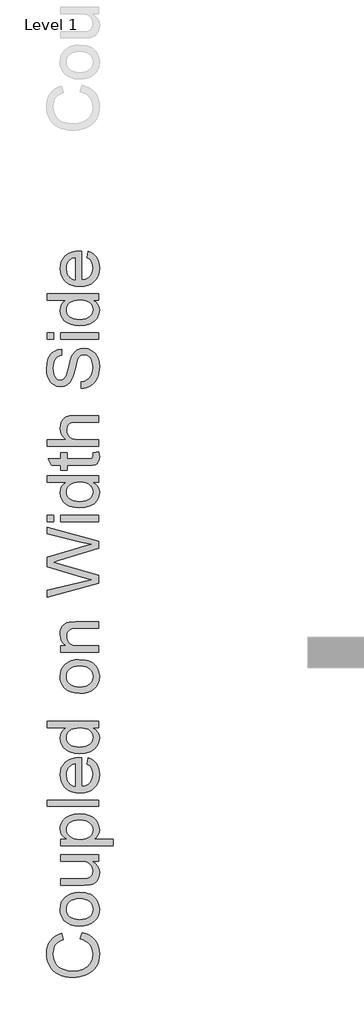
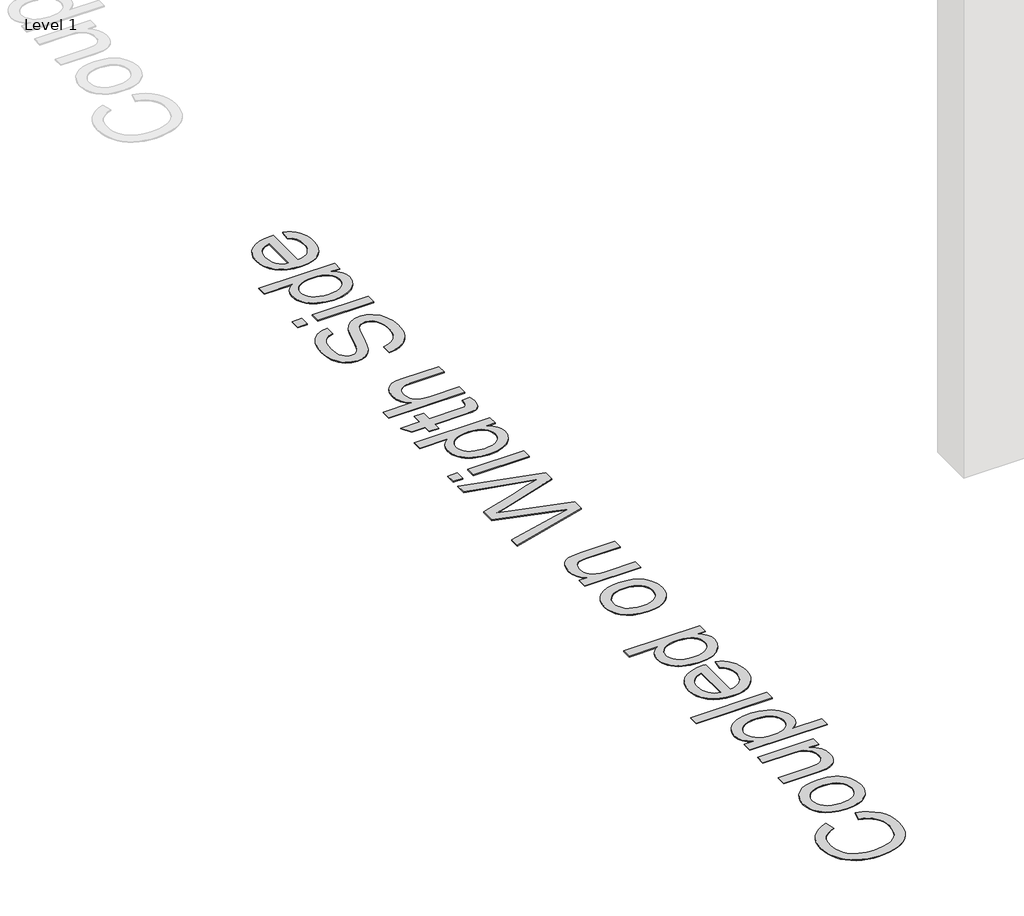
# One storey, part 61 of 80: 1 proxy.
"""IFC4 building model written with IfcOpenShell, lengths in millimetres."""

from ifc_helpers import new_model, si_unit, origin, origin_with_axes, place, context, project, spatial, polyline, outline, extrude, element, save

model = new_model("IFC4")

# Units and contexts
model_context = context("Model", 3, world=origin())
ifc_project = project(units=[si_unit("LENGTHUNIT", "METRE", prefix="MILLI")], contexts=[model_context])

# Site, building, storey
site = spatial("IfcSite", under=ifc_project)
building = spatial("IfcBuilding", under=site)
storey = spatial("IfcBuildingStorey", under=building, Name="Level 1", Elevation=0.0)

# Proxy
placement = place(None, origin())
element("IfcBuildingElementProxy", 1, Name="500mm Arial", ObjectType="500mm Arial", at=placement, inside=storey, context=model_context, shape_type="SweptSolid", body=[
    extrude(outline(polyline([(172134.4472638, 44082.6564057), (172150.6340716, 44145.4415995), (172189.6793805, 44133.017918), (172223.7966034, 44116.4708924), (172252.9857405, 44095.8005228), (172277.2467916, 44071.0068092), (172296.3191738, 44042.6492387), (172309.942304, 44011.2872986), (172318.116182, 43976.9209889), (172320.8408081, 43939.5503096), (172318.779136, 43901.2637573), (172312.59412, 43866.7250029), (172302.2857599, 43835.9340464), (172287.8540558, 43808.8908876), (172269.5136055, 43785.2238126), (172247.4790069, 43764.5611072), (172221.7502598, 43746.9027714), (172192.3273644, 43732.2488053), (172160.4825792, 43720.7409966), (172127.4881628, 43712.5211333), (172093.3441151, 43707.5892153), (172058.0504362, 43705.9452426), (172020.1815833, 43707.8038131), (171984.8112623, 43713.3795246), (171951.9394732, 43722.6723771), (171921.566216, 43735.6823706), (171894.1934963, 43752.1182651), (171870.3233197, 43771.6888208), (171849.9556863, 43794.3940377), (171833.0905961, 43820.2339158), (171819.8660048, 43848.3309032), (171810.4198682, 43877.807448), (171804.7521862, 43908.6635504), (171802.8629589, 43940.8992102), (171805.3078413, 43976.8098579), (171812.6424886, 44009.7391286), (171824.8669007, 44039.6870222), (171841.9810777, 44066.6535389), (171863.5328312, 44090.1941545), (171889.0699731, 44109.8643449), (171918.5925032, 44125.6641102), (171952.1004216, 44137.5934503), (171967.060956, 44074.8082565), (171942.3707092, 44064.9214278), (171921.2749761, 44053.0419051), (171903.7737566, 44039.1696882), (171889.8670507, 44023.3047771), (171879.2712828, 44005.3552014), (171871.7028772, 43985.2289906), (171867.1618338, 43962.9261447), (171865.6481527, 43938.4466636), (171867.3266143, 43910.2806983), (171872.3619991, 43884.5212944), (171880.7543071, 43861.168452), (171892.5035383, 43840.2221709), (171907.0808624, 43821.9468663), (171923.9574489, 43806.6069536), (171943.1332979, 43794.2024325), (171964.6084094, 43784.7333033), (172010.563002, 43772.7311532), (172057.9278088, 43768.7304365), (172115.9305368, 43773.4669172), (172166.0851154, 43787.6763592), (172187.7403358, 43798.4675644), (172206.4754928, 43811.8952572), (172222.2905865, 43827.9594377), (172235.1856169, 43846.6601058), (172252.3381149, 43888.3380701), (172258.0556142, 43933.2963156), (172256.1089053, 43960.5923933), (172250.2687787, 43985.7041715), (172240.5352342, 44008.6316505), (172226.908272, 44029.3748301), (172209.4492056, 44047.443201), (172188.2193488, 44062.3462539), (172163.2187015, 44074.0839888), (172134.4472638, 44082.6564057)])), origin_with_axes(), (0.0, 0.0, 1.0), 5.0),
    extrude(outline(polyline([(172128.5611519, 44208.2267934), (172080.790142, 44211.6220376), (172039.6256796, 44221.8077704), (172005.0677647, 44238.7839916), (171977.1163972, 44262.5507013), (171959.2511278, 44286.4783594), (171946.4902211, 44312.889221), (171938.8336771, 44341.783286), (171936.2814958, 44373.1605545), (171939.3893322, 44407.7989437), (171948.7128415, 44439.1187306), (171964.2520237, 44467.1199154), (171986.0068788, 44491.802498), (172013.2416427, 44511.9478693), (172045.2205516, 44526.3374203), (172081.9436053, 44534.9711509), (172123.410804, 44537.8490611), (172186.8397913, 44532.7600268), (172212.8751067, 44526.398734), (172235.1243032, 44517.492924), (172254.3423053, 44506.1537279), (172271.2840376, 44492.4922767), (172285.9495001, 44476.5085705), (172298.3386927, 44458.2026091), (172315.2152792, 44417.4750065), (172320.8408081, 44373.1605545), (172317.7444679, 44338.0163277), (172308.4554476, 44306.4053008), (172292.9737469, 44278.327474), (172271.299366, 44253.7828471), (172243.8001869, 44233.8520736), (172210.8440915, 44219.6158068), (172172.4310798, 44211.0740467), (172128.5611519, 44208.2267934)]), holes=[polyline([(172128.4385246, 44271.0119872), (172158.892256, 44272.8284046), (172185.2609644, 44278.2776566), (172207.5446499, 44287.3597434), (172225.7433123, 44300.0746648), (172239.8799444, 44315.541037), (172249.9775387, 44332.8774761), (172256.0360954, 44352.0839819), (172258.0556142, 44373.1605545), (172256.024599, 44394.1298283), (172249.9315535, 44413.259692), (172239.7764776, 44430.5501458), (172225.5593713, 44446.0011896), (172207.1806, 44458.716111), (172184.5405289, 44467.7981978), (172157.639158, 44473.2474499), (172126.4764873, 44475.0638672), (172096.9884461, 44473.2359535), (172071.3095164, 44467.7522126), (172049.4396982, 44458.6126442), (172031.3789915, 44445.8172486), (172017.2423594, 44430.3087232), (172007.1447651, 44413.0297658), (172001.0862085, 44393.9803762), (171999.0666896, 44373.1605545), (172001.0785443, 44352.0839819), (172007.1141083, 44332.8774761), (172017.1733816, 44315.541037), (172031.2563642, 44300.0746648), (172049.4013772, 44287.3597434), (172071.6467416, 44278.2776566), (172097.9924574, 44272.8284046), (172128.4385246, 44271.0119872)])]), origin_with_axes(), (0.0, 0.0, 1.0), 5.0),
    extrude(outline(polyline([(172312.9926588, 44843.926881), (172249.5943283, 44843.926881), (172280.7646632, 44821.2101678), (172303.0291881, 44794.753321), (172316.3879031, 44764.5563406), (172320.8408081, 44730.6192265), (172317.7138111, 44700.0390357), (172308.3328202, 44671.5741663), (172294.2306771, 44647.6924934), (172276.9402233, 44630.8618922), (172255.9402927, 44619.5341924), (172230.7097192, 44612.1612241), (172172.3391093, 44608.4824041), (171944.129645, 44608.4824041), (171944.129645, 44671.267598), (172142.7859224, 44671.267598), (172206.7973896, 44675.0690453), (172228.1498737, 44684.2201099), (172244.3826667, 44699.9010799), (172254.6373773, 44721.0696231), (172258.0556142, 44746.683407), (172254.5607353, 44773.7687189), (172244.0760984, 44799.1065913), (172227.5673939, 44819.9992229), (172206.0003119, 44833.7488125), (172176.4624534, 44841.3823639), (172136.0414192, 44843.926881), (171944.129645, 44843.926881), (171944.129645, 44906.7120749), (172312.9926588, 44906.7120749), (172312.9926588, 44843.926881)])), origin_with_axes(), (0.0, 0.0, 1.0), 5.0),
    extrude(outline(polyline([(172454.259345, 44993.0417164), (171944.129645, 44993.0417164), (171944.129645, 45055.8269103), (172005.6885655, 45055.8269103), (171975.3229725, 45076.3056747), (171953.6332632, 45099.2369857), (171940.6194376, 45125.969744), (171936.2814958, 45157.8528503), (171937.799009, 45179.7494932), (171942.3515487, 45200.3125639), (171949.9391148, 45219.5420623), (171960.5617075, 45237.4379885), (171973.943415, 45253.6094679), (171989.8083261, 45267.6656258), (172028.9877586, 45289.4319772), (172075.2489195, 45302.5837585), (172125.7407233, 45306.9676856), (172179.4361662, 45302.0166071), (172227.460095, 45287.1633716), (172248.735937, 45276.1422401), (172267.3752914, 45262.8831599), (172283.3781582, 45247.3861308), (172296.7445374, 45229.651153), (172314.8167404, 45190.9469014), (172320.8408081, 45150.2499557), (172316.8094345, 45121.3865475), (172304.7153139, 45095.6194794), (172286.4591699, 45073.5618881), (172263.9417261, 45055.8269103), (172454.259345, 45055.8269103), (172454.259345, 44993.0417164)]), holes=[polyline([(172131.5042079, 45055.8269103), (172161.762502, 45057.5245324), (172187.7901531, 45062.6173988), (172209.5871614, 45071.1055094), (172227.1535266, 45082.9888642), (172240.6731899, 45097.2941089), (172250.3300923, 45113.0478889), (172256.1242337, 45130.2502043), (172258.0556142, 45148.901055), (172256.0552559, 45167.8201531), (172250.0541808, 45185.336701), (172240.0523891, 45201.4506988), (172226.0498806, 45216.1621465), (172207.8473861, 45228.4210476), (172185.245636, 45237.1774055), (172158.2446304, 45242.4312202), (172126.8443693, 45244.1824918), (172096.8466583, 45242.4733734), (172070.8649923, 45237.346018), (172048.8993715, 45228.8004259), (172030.9497959, 45216.8365968), (172017.0009369, 45202.4968632), (172007.0374662, 45186.8235574), (172001.0593838, 45169.8166793), (171999.0666896, 45151.476229), (172001.1858432, 45133.1932603), (172007.5433039, 45115.9909449), (172018.1390718, 45099.8692829), (172032.9731468, 45084.8282742), (172051.8462596, 45072.1401775), (172074.5591407, 45063.0772512), (172101.1117901, 45057.6394955), (172131.5042079, 45055.8269103)])]), origin_with_axes(), (0.0, 0.0, 1.0), 5.0),
    extrude(outline(polyline([(172312.9926588, 45377.6010287), (171810.7111081, 45377.6010287), (171810.7111081, 45440.3862226), (172312.9926588, 45440.3862226), (172312.9926588, 45377.6010287)])), origin_with_axes(), (0.0, 0.0, 1.0), 5.0),
    extrude(outline(polyline([(172203.1185696, 45792.8171739), (172210.9667188, 45854.3760945), (172235.6224767, 45844.937622), (172257.3505071, 45832.1958758), (172276.1508099, 45816.1508559), (172292.0233851, 45796.8025622), (172304.6310077, 45774.3502642), (172313.6364523, 45748.9932313), (172319.0397191, 45720.7314634), (172320.8408081, 45689.5649606), (172317.7329716, 45650.6077902), (172308.4094623, 45615.8965911), (172292.8702801, 45585.4313634), (172271.115425, 45559.212107), (172243.7503696, 45538.1278701), (172211.3805861, 45523.067701), (172174.0060746, 45514.0315995), (172131.6268352, 45511.0195656), (172087.8105567, 45514.0622563), (172049.1906115, 45523.1903283), (172015.7669994, 45538.4037816), (171987.5397204, 45559.7026163), (171965.1142471, 45585.8528948), (171949.0960519, 45615.6206796), (171939.4851348, 45649.0059706), (171936.2814958, 45686.008768), (171939.4774706, 45721.819781), (171949.0653951, 45754.2048929), (171965.0452693, 45783.1641037), (171987.4170931, 45808.6974134), (172015.5830584, 45829.5402277), (172048.9453568, 45844.4279522), (172087.5039884, 45853.3605869), (172131.2589532, 45856.3381318), (172148.181525, 45855.9702498), (172148.181525, 45573.8047595), (172173.2358217, 45577.4414263), (172195.1784499, 45584.6726067), (172214.0094095, 45595.4983009), (172229.7287006, 45609.9185087), (172242.1217253, 45627.1361525), (172250.9738858, 45646.3541546), (172256.2851821, 45667.5725151), (172258.0556142, 45690.7912339), (172254.7753331, 45724.2071818), (172244.9344897, 45752.3501545), (172227.9199474, 45775.2201518), (172203.1185696, 45792.8171739)]), holes=[polyline([(172085.3963312, 45573.8047595), (172085.3963312, 45793.5529379), (172052.2256379, 45785.0609952), (172028.4972492, 45768.4143349), (172015.6213794, 45751.2924937), (172006.4243295, 45731.8100764), (172000.9060996, 45709.9670829), (171999.0666896, 45685.7635133), (172004.9374731, 45643.4417555), (172012.2759525, 45625.0284952), (172022.5498236, 45608.4469807), (172035.2839056, 45594.5326106), (172050.0030175, 45584.1207838), (172066.7071594, 45577.2115), (172085.3963312, 45573.8047595)])]), origin_with_axes(), (0.0, 0.0, 1.0), 5.0),
    extrude(outline(polyline([(172312.9926588, 46146.7196533), (172253.7636576, 46146.7196533), (172283.1099109, 46127.9346789), (172304.0715205, 46105.1796447), (172316.6484862, 46078.4545506), (172320.8408081, 46047.7593966), (172314.7707551, 46007.1697498), (172296.5605964, 45970.0136683), (172267.4825903, 45938.5597577), (172228.8089956, 45915.0766237), (172182.1033106, 45900.4533144), (172128.9290339, 45895.5788779), (172076.4138791, 45900.0701039), (172028.9877586, 45913.543782), (172007.8575365, 45923.6452085), (171989.3484736, 45935.9845837), (171973.4605699, 45950.5619078), (171960.1938255, 45967.3771806), (171942.2595782, 46005.3456682), (171936.2814958, 46047.5141419), (171940.558124, 46078.2322885), (171953.3880085, 46105.3942425), (171973.0543669, 46128.417524), (171997.8404163, 46146.7196533), (171810.7111081, 46146.7196533), (171810.7111081, 46209.5048471), (172312.9926588, 46209.5048471), (172312.9926588, 46146.7196533)]), holes=[polyline([(172128.6837793, 45958.3640718), (172159.1298465, 45960.1345039), (172185.4755623, 45965.4458002), (172207.7209267, 45974.2979607), (172225.8659396, 45986.6909854), (172239.9489223, 46001.4905715), (172250.0081956, 46017.5624162), (172256.0437596, 46034.9065194), (172258.0556142, 46053.5228812), (172256.1357301, 46072.2273814), (172250.3760776, 46089.4680178), (172240.7766568, 46105.2447904), (172227.3374676, 46119.5576993), (172209.9512112, 46131.4410542), (172188.5105887, 46139.9291648), (172163.0156, 46145.0220312), (172133.4662452, 46146.7196533), (172101.069637, 46144.9913743), (172073.2868821, 46139.8065375), (172050.1179807, 46131.1651427), (172031.5629325, 46119.06719), (172017.3458263, 46104.4400486), (172007.1907503, 46088.2110876), (172001.0977048, 46070.3803072), (171999.0666896, 46050.9477072), (172001.0172306, 46031.9634634), (172006.8688536, 46014.6193602), (172016.6215586, 45998.9153975), (172030.2753455, 45984.8515754), (172048.1291186, 45973.2632926), (172070.4817819, 45964.9859477), (172097.3333355, 45960.0195407), (172128.6837793, 45958.3640718)])]), origin_with_axes(), (0.0, 0.0, 1.0), 5.0),
    extrude(outline(polyline([(172128.5611519, 46484.1900702), (172080.790142, 46487.5853144), (172039.6256796, 46497.7710472), (172005.0677647, 46514.7472684), (171977.1163972, 46538.5139782), (171959.2511278, 46562.4416363), (171946.4902211, 46588.8524978), (171938.8336771, 46617.7465629), (171936.2814958, 46649.1238314), (171939.3893322, 46683.7622205), (171948.7128415, 46715.0820074), (171964.2520237, 46743.0831922), (171986.0068788, 46767.7657748), (172013.2416427, 46787.9111462), (172045.2205516, 46802.3006971), (172081.9436053, 46810.9344277), (172123.410804, 46813.8123379), (172186.8397913, 46808.7233036), (172212.8751067, 46802.3620108), (172235.1243032, 46793.4562008), (172254.3423053, 46782.1170047), (172271.2840376, 46768.4555536), (172285.9495001, 46752.4718473), (172298.3386927, 46734.1658859), (172315.2152792, 46693.4382834), (172320.8408081, 46649.1238314), (172317.7444679, 46613.9796045), (172308.4554476, 46582.3685777), (172292.9737469, 46554.2907508), (172271.299366, 46529.7461239), (172243.8001869, 46509.8153504), (172210.8440915, 46495.5790836), (172172.4310798, 46487.0373236), (172128.5611519, 46484.1900702)]), holes=[polyline([(172128.4385246, 46546.975264), (172158.892256, 46548.7916814), (172185.2609644, 46554.2409334), (172207.5446499, 46563.3230202), (172225.7433123, 46576.0379417), (172239.8799444, 46591.5043139), (172249.9775387, 46608.8407529), (172256.0360954, 46628.0472587), (172258.0556142, 46649.1238314), (172256.024599, 46670.0931051), (172249.9315535, 46689.2229688), (172239.7764776, 46706.5134226), (172225.5593713, 46721.9644664), (172207.1806, 46734.6793879), (172184.5405289, 46743.7614746), (172157.639158, 46749.2107267), (172126.4764873, 46751.027144), (172096.9884461, 46749.1992304), (172071.3095164, 46743.7154894), (172049.4396982, 46734.5759211), (172031.3789915, 46721.7805254), (172017.2423594, 46706.2720001), (172007.1447651, 46688.9930426), (172001.0862085, 46669.943653), (171999.0666896, 46649.1238314), (172001.0785443, 46628.0472587), (172007.1141083, 46608.8407529), (172017.1733816, 46591.5043139), (172031.2563642, 46576.0379417), (172049.4013772, 46563.3230202), (172071.6467416, 46554.2409334), (172097.9924574, 46548.7916814), (172128.4385246, 46546.975264)])]), origin_with_axes(), (0.0, 0.0, 1.0), 5.0),
    extrude(outline(polyline([(172312.9926588, 46884.445681), (171944.129645, 46884.445681), (171944.129645, 46947.2308748), (171995.6331243, 46947.2308748), (171969.6667868, 46969.0432114), (171951.1194029, 46995.2394752), (171939.9909726, 47025.819666), (171936.2814958, 47060.783784), (171939.270537, 47091.7318568), (171948.2376606, 47120.0740989), (171962.0638923, 47143.7105171), (171979.6302575, 47160.5411183), (172000.8907712, 47171.9607886), (172025.7994479, 47179.3644138), (172086.4999771, 47182.6753517), (172312.9926588, 47182.6753517), (172312.9926588, 47119.8901579), (172094.961263, 47119.8901579), (172062.495677, 47118.0814047), (172039.4110818, 47112.6551453), (172022.8717204, 47102.6456893), (172010.0418358, 47087.0873466), (172001.8104762, 47067.1450768), (171999.0666896, 47043.9838395), (172000.6071955, 47024.9191215), (172005.228713, 47007.2109684), (172012.9312423, 46990.8593802), (172023.7147833, 46975.8643568), (172038.8056093, 46963.3372084), (172059.4299937, 46954.3892453), (172085.5879364, 46949.0204674), (172117.2794374, 46947.2308748), (172312.9926588, 46947.2308748), (172312.9926588, 46884.445681)])), origin_with_axes(), (0.0, 0.0, 1.0), 5.0),
    extrude(outline(polyline([(172312.9926588, 47562.9427074), (171810.7111081, 47425.9679779), (171810.7111081, 47490.715209), (172140.8238851, 47570.17772), (172242.7271978, 47594.7031863), (172152.5961089, 47620.9454353), (171810.7111081, 47720.5188287), (171810.7111081, 47813.8382281), (172058.5409455, 47886.1883538), (172150.5114443, 47917.1824119), (172242.7271978, 47940.0217524), (172143.7669411, 47963.8114548), (171810.7111081, 48044.0097297), (171810.7111081, 48108.7569609), (172312.9926588, 47971.659604), (172312.9926588, 47904.5824536), (171925.4902906, 47784.1624138), (171871.4116373, 47767.3624694), (171936.5267504, 47748.4778603), (172312.9926588, 47638.7263984), (172312.9926588, 47562.9427074)])), origin_with_axes(), (0.0, 0.0, 1.0), 5.0),
    extrude(outline(polyline([(172312.9926588, 48163.6940055), (171944.129645, 48163.6940055), (171944.129645, 48226.4791994), (172312.9926588, 48226.4791994), (172312.9926588, 48163.6940055)])), origin_with_axes(), (0.0, 0.0, 1.0), 5.0),
    extrude(outline(polyline([(171873.4963019, 48163.6940055), (171810.7111081, 48163.6940055), (171810.7111081, 48226.4791994), (171873.4963019, 48226.4791994), (171873.4963019, 48163.6940055)])), origin_with_axes(), (0.0, 0.0, 1.0), 5.0),
    extrude(outline(polyline([(172312.9926588, 48548.2533178), (172253.7636576, 48548.2533178), (172283.1099109, 48529.4683434), (172304.0715205, 48506.7133092), (172316.6484862, 48479.9882151), (172320.8408081, 48449.2930611), (172314.7707551, 48408.7034143), (172296.5605964, 48371.5473328), (172267.4825903, 48340.0934222), (172228.8089956, 48316.6102882), (172182.1033106, 48301.9869789), (172128.9290339, 48297.1125424), (172076.4138791, 48301.6037685), (172028.9877586, 48315.0774465), (172007.8575365, 48325.178873), (171989.3484736, 48337.5182482), (171973.4605699, 48352.0955723), (171960.1938255, 48368.9108452), (171942.2595782, 48406.8793327), (171936.2814958, 48449.0478064), (171940.558124, 48479.765953), (171953.3880085, 48506.927907), (171973.0543669, 48529.9511885), (171997.8404163, 48548.2533178), (171810.7111081, 48548.2533178), (171810.7111081, 48611.0385116), (172312.9926588, 48611.0385116), (172312.9926588, 48548.2533178)]), holes=[polyline([(172128.6837793, 48359.8977363), (172159.1298465, 48361.6681684), (172185.4755623, 48366.9794647), (172207.7209267, 48375.8316252), (172225.8659396, 48388.2246499), (172239.9489223, 48403.024236), (172250.0081956, 48419.0960807), (172256.0437596, 48436.4401839), (172258.0556142, 48455.0565457), (172256.1357301, 48473.7610459), (172250.3760776, 48491.0016823), (172240.7766568, 48506.778455), (172227.3374676, 48521.0913638), (172209.9512112, 48532.9747187), (172188.5105887, 48541.4628293), (172163.0156, 48546.5556957), (172133.4662452, 48548.2533178), (172101.069637, 48546.5250388), (172073.2868821, 48541.340202), (172050.1179807, 48532.6988072), (172031.5629325, 48520.6008545), (172017.3458263, 48505.9737131), (172007.1907503, 48489.7447522), (172001.0977048, 48471.9139717), (171999.0666896, 48452.4813717), (172001.0172306, 48433.4971279), (172006.8688536, 48416.1530247), (172016.6215586, 48400.449062), (172030.2753455, 48386.3852399), (172048.1291186, 48374.7969571), (172070.4817819, 48366.5196122), (172097.3333355, 48361.5532053), (172128.6837793, 48359.8977363)])]), origin_with_axes(), (0.0, 0.0, 1.0), 5.0),
    extrude(outline(polyline([(172260.6307882, 48838.6348393), (172314.8320688, 48846.4829886), (172320.8408081, 48799.5167205), (172318.2349773, 48769.3810537), (172310.4174849, 48746.9095952), (172298.3693495, 48731.0293557), (172283.0715899, 48720.6673462), (172256.7986841, 48714.9651753), (172211.8251102, 48713.0644516), (172006.9148388, 48713.0644516), (172006.9148388, 48665.9755563), (171944.129645, 48665.9755563), (171944.129645, 48713.0644516), (171854.4890655, 48713.0644516), (171817.5782387, 48775.8496455), (171944.129645, 48775.8496455), (171944.129645, 48838.6348393), (172006.9148388, 48838.6348393), (172006.9148388, 48775.8496455), (172209.9857002, 48775.8496455), (172242.3593158, 48779.1605834), (172253.8249713, 48789.890475), (172258.0556142, 48811.2889444), (172260.6307882, 48838.6348393)])), origin_with_axes(), (0.0, 0.0, 1.0), 5.0),
    extrude(outline(polyline([(172312.9926588, 48901.4200332), (171810.7111081, 48901.4200332), (171810.7111081, 48964.205227), (171995.3878697, 48964.205227), (171969.5288311, 48987.2668296), (171951.0580892, 49013.1641892), (171939.9756441, 49041.8973059), (171936.2814958, 49073.4661796), (171940.3128693, 49111.3886819), (171952.4069899, 49143.9768953), (171971.6134957, 49169.6366645), (171996.982025, 49186.7738341), (172031.838844, 49196.4307365), (172079.5102192, 49199.6497039), (172312.9926588, 49199.6497039), (172312.9926588, 49136.8645101), (172086.0094678, 49136.8645101), (172046.707408, 49131.8674463), (172031.7008883, 49125.6211166), (172019.7907087, 49116.876255), (172010.7239503, 49105.8397952), (172004.2476944, 49092.7186707), (171999.0666896, 49060.2224278), (172002.5615686, 49033.6889389), (172013.0462054, 49008.7802621), (172029.5089247, 48988.1482135), (172050.9380509, 48974.4446092), (172079.4182487, 48966.7650726), (172117.0341827, 48964.205227), (172312.9926588, 48964.205227), (172312.9926588, 48901.4200332)])), origin_with_axes(), (0.0, 0.0, 1.0), 5.0),
    extrude(outline(polyline([(172140.3333758, 49466.4867778), (172140.3333758, 49529.2719716), (172175.1748664, 49536.4763273), (172203.1798833, 49549.5054813), (172225.4060871, 49569.8309616), (172242.9111388, 49598.924296), (172254.2694954, 49634.4862222), (172258.0556142, 49674.2174777), (172255.1892003, 49709.1969241), (172246.5899587, 49739.8231002), (172232.9783249, 49764.6398064), (172215.0747345, 49782.1908433), (172194.519328, 49792.6294949), (172172.952246, 49796.1090454), (172151.936987, 49793.5032146), (172133.7728135, 49785.6857222), (172118.2757845, 49769.8054828), (172105.2619589, 49743.0114108), (172081.2883155, 49651.592735), (172065.4234045, 49591.5819845), (172050.3249143, 49553.1843013), (172029.2023564, 49521.9296601), (172003.6039009, 49499.7800983), (171974.0813708, 49486.5823318), (171941.186589, 49482.1830762), (171904.4137179, 49487.6246641), (171870.1240503, 49503.9494276), (171854.5963644, 49516.0857013), (171841.0613727, 49530.7281712), (171819.9694716, 49567.5316991), (171807.139587, 49611.7081954), (171802.8629589, 49660.6058439), (171807.3388565, 49713.5808512), (171820.7665493, 49759.9339826), (171842.8701258, 49798.0097691), (171857.0719037, 49813.3228571), (171873.3736746, 49826.1527417), (171910.3764719, 49843.9643617), (171951.9777942, 49851.0460901), (171951.9777942, 49788.2608962), (171931.9435539, 49784.0609101), (171914.5151444, 49776.733927), (171899.6925657, 49766.279947), (171887.4758177, 49752.69897), (171877.9262143, 49735.7380772), (171871.105069, 49715.1443497), (171865.6481527, 49663.0583905), (171871.0437553, 49609.7461581), (171877.7882585, 49589.3670284), (171887.2305631, 49573.1725564), (171898.5812555, 49560.8331811), (171911.0509223, 49552.0193416), (171924.6395635, 49546.731038), (171939.3471791, 49544.9682701), (171963.4741066, 49549.9653338), (171982.8798818, 49564.9565251), (171991.5097803, 49578.7214431), (172000.2316493, 49600.395824), (172017.9512987, 49667.4729745), (172034.7819, 49736.6961032), (172049.466523, 49778.573337), (172072.2445498, 49814.3651895), (172100.3568656, 49839.3351799), (172133.496902, 49854.0044744), (172171.3580907, 49858.8942393), (172210.0623423, 49853.2687104), (172246.4673314, 49836.3921239), (172277.7986146, 49808.9542584), (172301.2817487, 49771.6448928), (172315.9510432, 49726.7786178), (172320.8408081, 49676.6700243), (172315.5678328, 49615.1570891), (172308.9766137, 49588.4818123), (172299.748907, 49564.5273295), (172287.8693842, 49543.1480206), (172273.322717, 49524.1982658), (172256.1089053, 49507.6780649), (172236.2279492, 49493.5874181), (172214.323642, 49482.2367257), (172191.0397774, 49473.9363882), (172166.3763553, 49468.6864055), (172140.3333758, 49466.4867778)])), origin_with_axes(), (0.0, 0.0, 1.0), 5.0),
    extrude(outline(polyline([(172312.9926588, 49945.2238808), (171944.129645, 49945.2238808), (171944.129645, 50008.0090747), (172312.9926588, 50008.0090747), (172312.9926588, 49945.2238808)])), origin_with_axes(), (0.0, 0.0, 1.0), 5.0),
    extrude(outline(polyline([(171873.4963019, 49945.2238808), (171810.7111081, 49945.2238808), (171810.7111081, 50008.0090747), (171873.4963019, 50008.0090747), (171873.4963019, 49945.2238808)])), origin_with_axes(), (0.0, 0.0, 1.0), 5.0),
    extrude(outline(polyline([(172312.9926588, 50329.7831931), (172253.7636576, 50329.7831931), (172283.1099109, 50310.9982187), (172304.0715205, 50288.2431845), (172316.6484862, 50261.5180904), (172320.8408081, 50230.8229364), (172314.7707551, 50190.2332896), (172296.5605964, 50153.0772081), (172267.4825903, 50121.6232975), (172228.8089956, 50098.1401635), (172182.1033106, 50083.5168542), (172128.9290339, 50078.6424177), (172076.4138791, 50083.1336438), (172028.9877586, 50096.6073218), (172007.8575365, 50106.7087483), (171989.3484736, 50119.0481235), (171973.4605699, 50133.6254476), (171960.1938255, 50150.4407205), (171942.2595782, 50188.4092081), (171936.2814958, 50230.5776817), (171940.558124, 50261.2958283), (171953.3880085, 50288.4577823), (171973.0543669, 50311.4810639), (171997.8404163, 50329.7831931), (171810.7111081, 50329.7831931), (171810.7111081, 50392.568387), (172312.9926588, 50392.568387), (172312.9926588, 50329.7831931)]), holes=[polyline([(172128.6837793, 50141.4276116), (172159.1298465, 50143.1980437), (172185.4755623, 50148.50934), (172207.7209267, 50157.3615005), (172225.8659396, 50169.7545252), (172239.9489223, 50184.5541113), (172250.0081956, 50200.625956), (172256.0437596, 50217.9700592), (172258.0556142, 50236.586421), (172256.1357301, 50255.2909212), (172250.3760776, 50272.5315576), (172240.7766568, 50288.3083303), (172227.3374676, 50302.6212391), (172209.9512112, 50314.504594), (172188.5105887, 50322.9927046), (172163.0156, 50328.085571), (172133.4662452, 50329.7831931), (172101.069637, 50328.0549142), (172073.2868821, 50322.8700773), (172050.1179807, 50314.2286825), (172031.5629325, 50302.1307298), (172017.3458263, 50287.5035884), (172007.1907503, 50271.2746275), (172001.0977048, 50253.443847), (171999.0666896, 50234.011247), (172001.0172306, 50215.0270032), (172006.8688536, 50197.6829), (172016.6215586, 50181.9789373), (172030.2753455, 50167.9151152), (172048.1291186, 50156.3268324), (172070.4817819, 50148.0494875), (172097.3333355, 50143.0830806), (172128.6837793, 50141.4276116)])]), origin_with_axes(), (0.0, 0.0, 1.0), 5.0),
    extrude(outline(polyline([(172203.1185696, 50744.9993383), (172210.9667188, 50806.5582589), (172235.6224767, 50797.1197864), (172257.3505071, 50784.3780402), (172276.1508099, 50768.3330203), (172292.0233851, 50748.9847266), (172304.6310077, 50726.5324286), (172313.6364523, 50701.1753957), (172319.0397191, 50672.9136278), (172320.8408081, 50641.747125), (172317.7329716, 50602.7899546), (172308.4094623, 50568.0787555), (172292.8702801, 50537.6135278), (172271.115425, 50511.3942714), (172243.7503696, 50490.3100346), (172211.3805861, 50475.2498654), (172174.0060746, 50466.2137639), (172131.6268352, 50463.20173), (172087.8105567, 50466.2444207), (172049.1906115, 50475.3724927), (172015.7669994, 50490.585946), (171987.5397204, 50511.8847807), (171965.1142471, 50538.0350592), (171949.0960519, 50567.802844), (171939.4851348, 50601.1881351), (171936.2814958, 50638.1909324), (171939.4774706, 50674.0019454), (171949.0653951, 50706.3870573), (171965.0452693, 50735.3462681), (171987.4170931, 50760.8795778), (172015.5830584, 50781.7223921), (172048.9453568, 50796.6101166), (172087.5039884, 50805.5427513), (172131.2589532, 50808.5202962), (172148.181525, 50808.1524142), (172148.181525, 50525.9869239), (172173.2358217, 50529.6235907), (172195.1784499, 50536.8547711), (172214.0094095, 50547.6804653), (172229.7287006, 50562.1006731), (172242.1217253, 50579.3183169), (172250.9738858, 50598.536319), (172256.2851821, 50619.7546795), (172258.0556142, 50642.9733983), (172254.7753331, 50676.3893462), (172244.9344897, 50704.5323189), (172227.9199474, 50727.4023162), (172203.1185696, 50744.9993383)]), holes=[polyline([(172085.3963312, 50525.9869239), (172085.3963312, 50745.7351023), (172052.2256379, 50737.2431596), (172028.4972492, 50720.5964993), (172015.6213794, 50703.4746581), (172006.4243295, 50683.9922408), (172000.9060996, 50662.1492473), (171999.0666896, 50637.9456777), (172004.9374731, 50595.6239199), (172012.2759525, 50577.2106596), (172022.5498236, 50560.6291451), (172035.2839056, 50546.714775), (172050.0030175, 50536.3029482), (172066.7071594, 50529.3936644), (172085.3963312, 50525.9869239)])]), origin_with_axes(), (0.0, 0.0, 1.0), 5.0),
])

save(model, "model.ifc")
